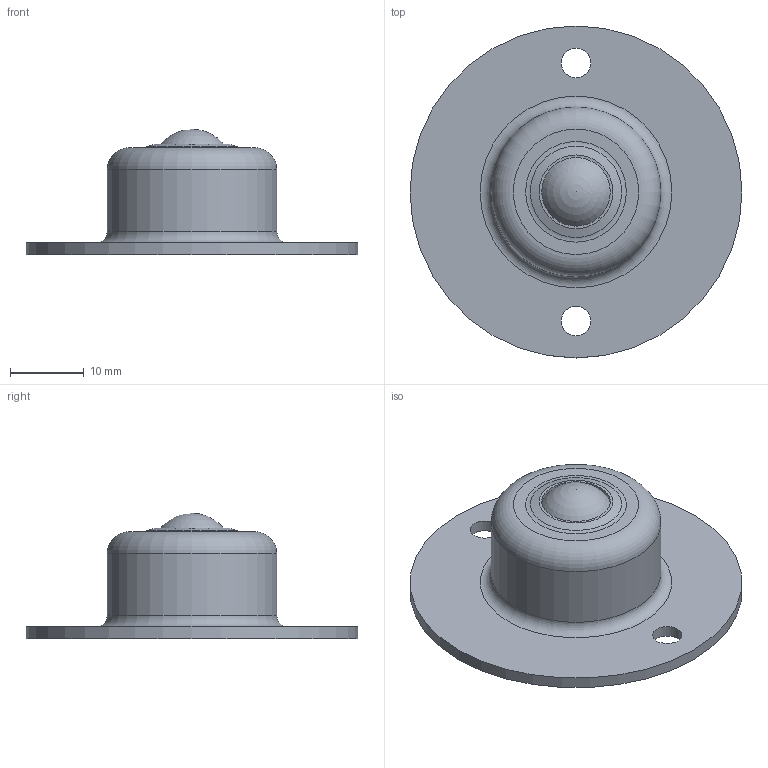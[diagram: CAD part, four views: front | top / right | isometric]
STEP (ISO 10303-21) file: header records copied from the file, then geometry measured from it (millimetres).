
FILE_DESCRIPTION(/* description */ (''),/* implementation_level */ '2;1');
FILE_NAME(/* name */ 'Z:\34-Tei\web 3Dデータ\IS型\IS-10.stp',/* time_stamp */ '2015-01-06T15:13:53+09:00',/* author */ ('yamaki'),/* organization */ (''),/* preprocessor_version */ 'ST-DEVELOPER v15.6',/* originating_system */ 'Autodesk Inventor 2015',/* authorisation */ '');
FILE_SCHEMA (('AUTOMOTIVE_DESIGN { 1 0 10303 214 3 1 1 }'));
Length unit declared in the file: millimetre
Products named in the file (1): IS-10
Bounding box: 45 x 45 x 17 mm (x, y, z)
Volume: 7751.7 mm3; surface area: 4417.4 mm2
Topology: 1 solids, 1 shells, 20 faces, 39 edges, 25 vertices
Faces by surface type: cylinder 7, plane 6, torus 4, cone 2, sphere 1
Full cylindrical faces by diameter (mm): 4 x2, 6 x1, 9.3 x1, 20 x1, 23 x1, 45 x1
Entity records: 473 total; most frequent: DIRECTION 84, CARTESIAN_POINT 63, EDGE_LOOP 42, ORIENTED_EDGE 42, AXIS2_PLACEMENT_3D 42, FACE_BOUND 22, CIRCLE 21, VERTEX_POINT 21
